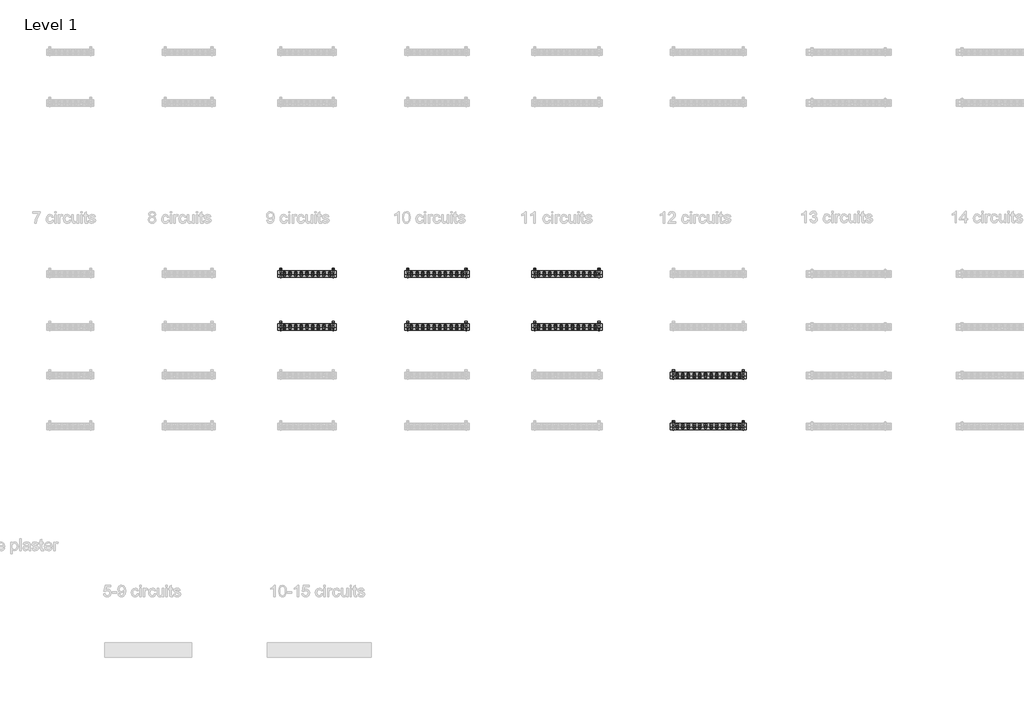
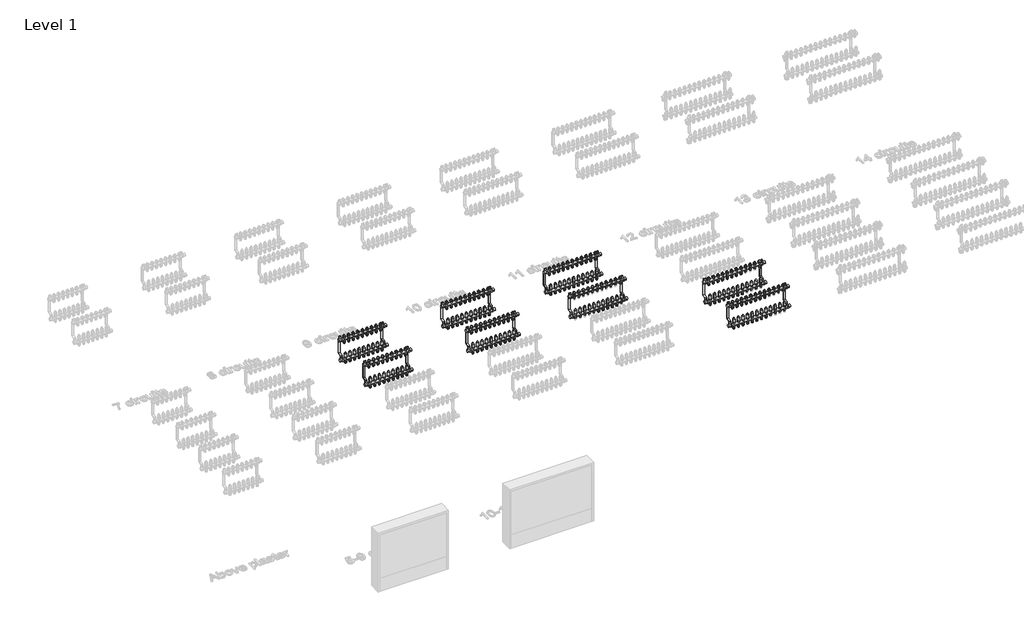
# One storey, part 4 of 23: 135 pipe fittings, 8 valves.
"""IFC4 building model written with IfcOpenShell, lengths in millimetres."""

from ifc_helpers import new_model, si_unit, origin, place, context, project, spatial, transform, mapped, element, save
from components import pipe_fitting_03c6499f, valve_f094e97b, valve_0359cbb0, valve_3285f891, valve_bdae45cc, valve_7e3f3941, valve_882e19a6, valve_5647343c, valve_f26d3ca9, valve_25ad0012, valve_28fdf4a6, valve_a7423dcf, valve_d379a65c, valve_24eee51e

model = new_model("IFC4")

# Units and contexts
model_context = context("Model", 3, world=origin())
ifc_project = project(units=[si_unit("LENGTHUNIT", "METRE", prefix="MILLI")], contexts=[model_context])

# Site, building, storey
site = spatial("IfcSite", under=ifc_project)
building = spatial("IfcBuilding", under=site)
storey = spatial("IfcBuildingStorey", under=building, Name="Level 1", Elevation=0.0)

# Pipe fittings
placement = place(None, origin())
pipe_fitting_shape = pipe_fitting_03c6499f(model_context)
element("IfcPipeFitting", 1, ObjectType="Euroconus screwing for multilayer pipes - Manifold FT : Euroconus screwing for multilayer pipes - Manifold FT", at=placement, inside=storey, context=model_context, shape_type="MappedRepresentation", body=[
    mapped(pipe_fitting_shape, transform((8575.9796862, -1164.6959314, 62.88733), x_axis=(0.0, 0.0, -1.0), y_axis=(0.0, 1.0000000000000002, 0.0), z_axis=(1.0000000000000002, 0.0, 0.0))),
])
element("IfcPipeFitting", 2, ObjectType="Euroconus screwing for multilayer pipes - Manifold FT : Euroconus screwing for multilayer pipes - Manifold FT", at=placement, inside=storey, context=model_context, shape_type="MappedRepresentation", body=[
    mapped(pipe_fitting_shape, transform((8526.9796862, -1164.6959314, 62.88733), x_axis=(0.0, 0.0, -1.0), y_axis=(0.0, 1.0000000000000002, 0.0), z_axis=(1.0000000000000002, 0.0, 0.0))),
])
element("IfcPipeFitting", 3, ObjectType="Euroconus screwing for multilayer pipes - Manifold FT : Euroconus screwing for multilayer pipes - Manifold FT", at=placement, inside=storey, context=model_context, shape_type="MappedRepresentation", body=[
    mapped(pipe_fitting_shape, transform((8477.9796862, -1164.6959314, 62.88733), x_axis=(0.0, 0.0, -1.0), y_axis=(0.0, 1.0000000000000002, 0.0), z_axis=(1.0000000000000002, 0.0, 0.0))),
])
element("IfcPipeFitting", 4, ObjectType="Euroconus screwing for multilayer pipes - Manifold FT : Euroconus screwing for multilayer pipes - Manifold FT", at=placement, inside=storey, context=model_context, shape_type="MappedRepresentation", body=[
    mapped(pipe_fitting_shape, transform((8428.9796862, -1164.6959314, 62.88733), x_axis=(0.0, 0.0, -1.0), y_axis=(0.0, 1.0000000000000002, 0.0), z_axis=(1.0000000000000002, 0.0, 0.0))),
])
element("IfcPipeFitting", 5, ObjectType="Euroconus screwing for multilayer pipes - Manifold FT : Euroconus screwing for multilayer pipes - Manifold FT", at=placement, inside=storey, context=model_context, shape_type="MappedRepresentation", body=[
    mapped(pipe_fitting_shape, transform((8379.9796862, -1164.6959314, 62.88733), x_axis=(0.0, 0.0, -1.0), y_axis=(0.0, 1.0000000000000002, 0.0), z_axis=(1.0000000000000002, 0.0, 0.0))),
])
element("IfcPipeFitting", 6, ObjectType="Euroconus screwing for multilayer pipes - Manifold FT : Euroconus screwing for multilayer pipes - Manifold FT", at=placement, inside=storey, context=model_context, shape_type="MappedRepresentation", body=[
    mapped(pipe_fitting_shape, transform((8330.9796862, -1164.6959314, 62.88733), x_axis=(0.0, 0.0, -1.0), y_axis=(0.0, 1.0000000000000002, 0.0), z_axis=(1.0000000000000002, 0.0, 0.0))),
])
element("IfcPipeFitting", 7, ObjectType="Euroconus screwing for multilayer pipes - Manifold FT : Euroconus screwing for multilayer pipes - Manifold FT", at=placement, inside=storey, context=model_context, shape_type="MappedRepresentation", body=[
    mapped(pipe_fitting_shape, transform((8281.9796862, -1164.6959314, 62.88733), x_axis=(0.0, 0.0, -1.0), y_axis=(0.0, 1.0000000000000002, 0.0), z_axis=(1.0000000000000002, 0.0, 0.0))),
])
element("IfcPipeFitting", 8, ObjectType="Euroconus screwing for multilayer pipes - Manifold FT : Euroconus screwing for multilayer pipes - Manifold FT", at=placement, inside=storey, context=model_context, shape_type="MappedRepresentation", body=[
    mapped(pipe_fitting_shape, transform((8624.9796862, -1164.6959314, 62.88733), x_axis=(0.0, 0.0, -1.0), y_axis=(0.0, 1.0000000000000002, 0.0), z_axis=(1.0000000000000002, 0.0, 0.0))),
])
element("IfcPipeFitting", 9, ObjectType="Euroconus screwing for multilayer pipes - Manifold FT : Euroconus screwing for multilayer pipes - Manifold FT", at=placement, inside=storey, context=model_context, shape_type="MappedRepresentation", body=[
    mapped(pipe_fitting_shape, transform((8575.9796862, -1139.6959314, 272.88733), x_axis=(0.0, 0.0, -1.0), y_axis=(0.0, 1.0000000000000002, 0.0), z_axis=(1.0000000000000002, 0.0, 0.0))),
])
element("IfcPipeFitting", 10, ObjectType="Euroconus screwing for multilayer pipes - Manifold FT : Euroconus screwing for multilayer pipes - Manifold FT", at=placement, inside=storey, context=model_context, shape_type="MappedRepresentation", body=[
    mapped(pipe_fitting_shape, transform((8526.9796862, -1139.6959314, 272.88733), x_axis=(0.0, 0.0, -1.0), y_axis=(0.0, 1.0000000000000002, 0.0), z_axis=(1.0000000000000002, 0.0, 0.0))),
])
element("IfcPipeFitting", 11, ObjectType="Euroconus screwing for multilayer pipes - Manifold FT : Euroconus screwing for multilayer pipes - Manifold FT", at=placement, inside=storey, context=model_context, shape_type="MappedRepresentation", body=[
    mapped(pipe_fitting_shape, transform((8477.9796862, -1139.6959314, 272.88733), x_axis=(0.0, 0.0, -1.0), y_axis=(0.0, 1.0000000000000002, 0.0), z_axis=(1.0000000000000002, 0.0, 0.0))),
])
element("IfcPipeFitting", 12, ObjectType="Euroconus screwing for multilayer pipes - Manifold FT : Euroconus screwing for multilayer pipes - Manifold FT", at=placement, inside=storey, context=model_context, shape_type="MappedRepresentation", body=[
    mapped(pipe_fitting_shape, transform((8428.9796862, -1139.6959314, 272.88733), x_axis=(0.0, 0.0, -1.0), y_axis=(0.0, 1.0000000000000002, 0.0), z_axis=(1.0000000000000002, 0.0, 0.0))),
])
element("IfcPipeFitting", 13, ObjectType="Euroconus screwing for multilayer pipes - Manifold FT : Euroconus screwing for multilayer pipes - Manifold FT", at=placement, inside=storey, context=model_context, shape_type="MappedRepresentation", body=[
    mapped(pipe_fitting_shape, transform((8379.9796862, -1139.6959314, 272.88733), x_axis=(0.0, 0.0, -1.0), y_axis=(0.0, 1.0000000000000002, 0.0), z_axis=(1.0000000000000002, 0.0, 0.0))),
])
element("IfcPipeFitting", 14, ObjectType="Euroconus screwing for multilayer pipes - Manifold FT : Euroconus screwing for multilayer pipes - Manifold FT", at=placement, inside=storey, context=model_context, shape_type="MappedRepresentation", body=[
    mapped(pipe_fitting_shape, transform((8330.9796862, -1139.6959314, 272.88733), x_axis=(0.0, 0.0, -1.0), y_axis=(0.0, 1.0000000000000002, 0.0), z_axis=(1.0000000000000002, 0.0, 0.0))),
])
element("IfcPipeFitting", 15, ObjectType="Euroconus screwing for multilayer pipes - Manifold FT : Euroconus screwing for multilayer pipes - Manifold FT", at=placement, inside=storey, context=model_context, shape_type="MappedRepresentation", body=[
    mapped(pipe_fitting_shape, transform((8281.9796862, -1139.6959314, 272.88733), x_axis=(0.0, 0.0, -1.0), y_axis=(0.0, 1.0000000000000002, 0.0), z_axis=(1.0000000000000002, 0.0, 0.0))),
])
element("IfcPipeFitting", 16, ObjectType="Euroconus screwing for multilayer pipes - Manifold FT : Euroconus screwing for multilayer pipes - Manifold FT", at=placement, inside=storey, context=model_context, shape_type="MappedRepresentation", body=[
    mapped(pipe_fitting_shape, transform((8624.9796862, -1139.6959314, 272.88733), x_axis=(0.0, 0.0, -1.0), y_axis=(0.0, 1.0000000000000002, 0.0), z_axis=(1.0000000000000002, 0.0, 0.0))),
])
element("IfcPipeFitting", 17, ObjectType="Euroconus screwing for multilayer pipes - Manifold FT : Euroconus screwing for multilayer pipes - Manifold FT", at=placement, inside=storey, context=model_context, shape_type="MappedRepresentation", body=[
    mapped(pipe_fitting_shape, transform((8232.9796862, -1164.6959314, 62.88733), x_axis=(0.0, 0.0, -1.0), y_axis=(0.0, 1.0000000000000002, 0.0), z_axis=(1.0000000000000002, 0.0, 0.0))),
])
element("IfcPipeFitting", 18, ObjectType="Euroconus screwing for multilayer pipes - Manifold FT : Euroconus screwing for multilayer pipes - Manifold FT", at=placement, inside=storey, context=model_context, shape_type="MappedRepresentation", body=[
    mapped(pipe_fitting_shape, transform((8232.9796862, -1139.6959314, 272.88733), x_axis=(0.0, 0.0, -1.0), y_axis=(0.0, 1.0000000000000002, 0.0), z_axis=(1.0000000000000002, 0.0, 0.0))),
])
element("IfcPipeFitting", 19, ObjectType="Euroconus screwing for multilayer pipes - Manifold FT : Euroconus screwing for multilayer pipes - Manifold FT", at=placement, inside=storey, context=model_context, shape_type="MappedRepresentation", body=[
    mapped(pipe_fitting_shape, transform((9725.8685751, -1164.6959314, 62.88733), x_axis=(0.0, 0.0, -1.0), y_axis=(0.0, 1.0000000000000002, 0.0), z_axis=(1.0000000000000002, 0.0, 0.0))),
])
element("IfcPipeFitting", 20, ObjectType="Euroconus screwing for multilayer pipes - Manifold FT : Euroconus screwing for multilayer pipes - Manifold FT", at=placement, inside=storey, context=model_context, shape_type="MappedRepresentation", body=[
    mapped(pipe_fitting_shape, transform((9676.7574639, -1164.6959314, 62.88733), x_axis=(0.0, 0.0, -1.0), y_axis=(0.0, 1.0000000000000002, 0.0), z_axis=(1.0000000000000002, 0.0, 0.0))),
])
element("IfcPipeFitting", 21, ObjectType="Euroconus screwing for multilayer pipes - Manifold FT : Euroconus screwing for multilayer pipes - Manifold FT", at=placement, inside=storey, context=model_context, shape_type="MappedRepresentation", body=[
    mapped(pipe_fitting_shape, transform((9627.6463528, -1164.6959314, 62.88733), x_axis=(0.0, 0.0, -1.0), y_axis=(0.0, 1.0000000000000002, 0.0), z_axis=(1.0000000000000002, 0.0, 0.0))),
])
element("IfcPipeFitting", 22, ObjectType="Euroconus screwing for multilayer pipes - Manifold FT : Euroconus screwing for multilayer pipes - Manifold FT", at=placement, inside=storey, context=model_context, shape_type="MappedRepresentation", body=[
    mapped(pipe_fitting_shape, transform((9578.5352417, -1164.6959314, 62.88733), x_axis=(0.0, 0.0, -1.0), y_axis=(0.0, 1.0000000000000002, 0.0), z_axis=(1.0000000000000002, 0.0, 0.0))),
])
element("IfcPipeFitting", 23, ObjectType="Euroconus screwing for multilayer pipes - Manifold FT : Euroconus screwing for multilayer pipes - Manifold FT", at=placement, inside=storey, context=model_context, shape_type="MappedRepresentation", body=[
    mapped(pipe_fitting_shape, transform((9529.4241306, -1164.6959314, 62.88733), x_axis=(0.0, 0.0, -1.0), y_axis=(0.0, 1.0000000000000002, 0.0), z_axis=(1.0000000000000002, 0.0, 0.0))),
])
element("IfcPipeFitting", 24, ObjectType="Euroconus screwing for multilayer pipes - Manifold FT : Euroconus screwing for multilayer pipes - Manifold FT", at=placement, inside=storey, context=model_context, shape_type="MappedRepresentation", body=[
    mapped(pipe_fitting_shape, transform((9480.3130195, -1164.6959314, 62.88733), x_axis=(0.0, 0.0, -1.0), y_axis=(0.0, 1.0000000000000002, 0.0), z_axis=(1.0000000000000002, 0.0, 0.0))),
])
element("IfcPipeFitting", 25, ObjectType="Euroconus screwing for multilayer pipes - Manifold FT : Euroconus screwing for multilayer pipes - Manifold FT", at=placement, inside=storey, context=model_context, shape_type="MappedRepresentation", body=[
    mapped(pipe_fitting_shape, transform((9431.2019084, -1164.6959314, 62.88733), x_axis=(0.0, 0.0, -1.0), y_axis=(0.0, 1.0000000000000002, 0.0), z_axis=(1.0000000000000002, 0.0, 0.0))),
])
element("IfcPipeFitting", 26, ObjectType="Euroconus screwing for multilayer pipes - Manifold FT : Euroconus screwing for multilayer pipes - Manifold FT", at=placement, inside=storey, context=model_context, shape_type="MappedRepresentation", body=[
    mapped(pipe_fitting_shape, transform((9382.0907973, -1164.6959314, 62.88733), x_axis=(0.0, 0.0, -1.0), y_axis=(0.0, 1.0000000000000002, 0.0), z_axis=(1.0000000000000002, 0.0, 0.0))),
])
element("IfcPipeFitting", 27, ObjectType="Euroconus screwing for multilayer pipes - Manifold FT : Euroconus screwing for multilayer pipes - Manifold FT", at=placement, inside=storey, context=model_context, shape_type="MappedRepresentation", body=[
    mapped(pipe_fitting_shape, transform((9774.9796862, -1164.6959314, 62.88733), x_axis=(0.0, 0.0, -1.0), y_axis=(0.0, 1.0000000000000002, 0.0), z_axis=(1.0000000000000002, 0.0, 0.0))),
])
element("IfcPipeFitting", 28, ObjectType="Euroconus screwing for multilayer pipes - Manifold FT : Euroconus screwing for multilayer pipes - Manifold FT", at=placement, inside=storey, context=model_context, shape_type="MappedRepresentation", body=[
    mapped(pipe_fitting_shape, transform((9725.8685751, -1139.6959314, 272.88733), x_axis=(0.0, 0.0, -1.0), y_axis=(0.0, 1.0000000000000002, 0.0), z_axis=(1.0000000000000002, 0.0, 0.0))),
])
element("IfcPipeFitting", 29, ObjectType="Euroconus screwing for multilayer pipes - Manifold FT : Euroconus screwing for multilayer pipes - Manifold FT", at=placement, inside=storey, context=model_context, shape_type="MappedRepresentation", body=[
    mapped(pipe_fitting_shape, transform((9676.7574639, -1139.6959314, 272.88733), x_axis=(0.0, 0.0, -1.0), y_axis=(0.0, 1.0000000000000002, 0.0), z_axis=(1.0000000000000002, 0.0, 0.0))),
])
element("IfcPipeFitting", 30, ObjectType="Euroconus screwing for multilayer pipes - Manifold FT : Euroconus screwing for multilayer pipes - Manifold FT", at=placement, inside=storey, context=model_context, shape_type="MappedRepresentation", body=[
    mapped(pipe_fitting_shape, transform((9627.6463528, -1139.6959314, 272.88733), x_axis=(0.0, 0.0, -1.0), y_axis=(0.0, 1.0000000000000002, 0.0), z_axis=(1.0000000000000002, 0.0, 0.0))),
])
element("IfcPipeFitting", 31, ObjectType="Euroconus screwing for multilayer pipes - Manifold FT : Euroconus screwing for multilayer pipes - Manifold FT", at=placement, inside=storey, context=model_context, shape_type="MappedRepresentation", body=[
    mapped(pipe_fitting_shape, transform((9578.5352417, -1139.6959314, 272.88733), x_axis=(0.0, 0.0, -1.0), y_axis=(0.0, 1.0000000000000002, 0.0), z_axis=(1.0000000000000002, 0.0, 0.0))),
])
element("IfcPipeFitting", 32, ObjectType="Euroconus screwing for multilayer pipes - Manifold FT : Euroconus screwing for multilayer pipes - Manifold FT", at=placement, inside=storey, context=model_context, shape_type="MappedRepresentation", body=[
    mapped(pipe_fitting_shape, transform((9529.4241306, -1139.6959314, 272.88733), x_axis=(0.0, 0.0, -1.0), y_axis=(0.0, 1.0000000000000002, 0.0), z_axis=(1.0000000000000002, 0.0, 0.0))),
])
element("IfcPipeFitting", 33, ObjectType="Euroconus screwing for multilayer pipes - Manifold FT : Euroconus screwing for multilayer pipes - Manifold FT", at=placement, inside=storey, context=model_context, shape_type="MappedRepresentation", body=[
    mapped(pipe_fitting_shape, transform((9480.3130195, -1139.6959314, 272.88733), x_axis=(0.0, 0.0, -1.0), y_axis=(0.0, 1.0000000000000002, 0.0), z_axis=(1.0000000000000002, 0.0, 0.0))),
])
element("IfcPipeFitting", 34, ObjectType="Euroconus screwing for multilayer pipes - Manifold FT : Euroconus screwing for multilayer pipes - Manifold FT", at=placement, inside=storey, context=model_context, shape_type="MappedRepresentation", body=[
    mapped(pipe_fitting_shape, transform((9431.2019084, -1139.6959314, 272.88733), x_axis=(0.0, 0.0, -1.0), y_axis=(0.0, 1.0000000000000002, 0.0), z_axis=(1.0000000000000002, 0.0, 0.0))),
])
element("IfcPipeFitting", 35, ObjectType="Euroconus screwing for multilayer pipes - Manifold FT : Euroconus screwing for multilayer pipes - Manifold FT", at=placement, inside=storey, context=model_context, shape_type="MappedRepresentation", body=[
    mapped(pipe_fitting_shape, transform((9382.0907973, -1139.6959314, 272.88733), x_axis=(0.0, 0.0, -1.0), y_axis=(0.0, 1.0000000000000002, 0.0), z_axis=(1.0000000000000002, 0.0, 0.0))),
])
element("IfcPipeFitting", 36, ObjectType="Euroconus screwing for multilayer pipes - Manifold FT : Euroconus screwing for multilayer pipes - Manifold FT", at=placement, inside=storey, context=model_context, shape_type="MappedRepresentation", body=[
    mapped(pipe_fitting_shape, transform((9774.9796862, -1139.6959314, 272.88733), x_axis=(0.0, 0.0, -1.0), y_axis=(0.0, 1.0000000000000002, 0.0), z_axis=(1.0000000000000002, 0.0, 0.0))),
])
element("IfcPipeFitting", 37, ObjectType="Euroconus screwing for multilayer pipes - Manifold FT : Euroconus screwing for multilayer pipes - Manifold FT", at=placement, inside=storey, context=model_context, shape_type="MappedRepresentation", body=[
    mapped(pipe_fitting_shape, transform((9332.9796862, -1164.6959314, 62.88733), x_axis=(0.0, 0.0, -1.0), y_axis=(0.0, 1.0000000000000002, 0.0), z_axis=(1.0000000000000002, 0.0, 0.0))),
])
element("IfcPipeFitting", 38, ObjectType="Euroconus screwing for multilayer pipes - Manifold FT : Euroconus screwing for multilayer pipes - Manifold FT", at=placement, inside=storey, context=model_context, shape_type="MappedRepresentation", body=[
    mapped(pipe_fitting_shape, transform((9332.9796862, -1139.6959314, 272.88733), x_axis=(0.0, 0.0, -1.0), y_axis=(0.0, 1.0000000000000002, 0.0), z_axis=(1.0000000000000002, 0.0, 0.0))),
])
element("IfcPipeFitting", 39, ObjectType="Euroconus screwing for multilayer pipes - Manifold FT : Euroconus screwing for multilayer pipes - Manifold FT", at=placement, inside=storey, context=model_context, shape_type="MappedRepresentation", body=[
    mapped(pipe_fitting_shape, transform((10875.7796862, -1164.6959314, 62.88733), x_axis=(0.0, 0.0, -1.0), y_axis=(0.0, 1.0000000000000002, 0.0), z_axis=(1.0000000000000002, 0.0, 0.0))),
])
element("IfcPipeFitting", 40, ObjectType="Euroconus screwing for multilayer pipes - Manifold FT : Euroconus screwing for multilayer pipes - Manifold FT", at=placement, inside=storey, context=model_context, shape_type="MappedRepresentation", body=[
    mapped(pipe_fitting_shape, transform((10826.5796862, -1164.6959314, 62.88733), x_axis=(0.0, 0.0, -1.0), y_axis=(0.0, 1.0000000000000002, 0.0), z_axis=(1.0000000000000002, 0.0, 0.0))),
])
element("IfcPipeFitting", 41, ObjectType="Euroconus screwing for multilayer pipes - Manifold FT : Euroconus screwing for multilayer pipes - Manifold FT", at=placement, inside=storey, context=model_context, shape_type="MappedRepresentation", body=[
    mapped(pipe_fitting_shape, transform((10777.3796862, -1164.6959314, 62.88733), x_axis=(0.0, 0.0, -1.0), y_axis=(0.0, 1.0000000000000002, 0.0), z_axis=(1.0000000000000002, 0.0, 0.0))),
])
element("IfcPipeFitting", 42, ObjectType="Euroconus screwing for multilayer pipes - Manifold FT : Euroconus screwing for multilayer pipes - Manifold FT", at=placement, inside=storey, context=model_context, shape_type="MappedRepresentation", body=[
    mapped(pipe_fitting_shape, transform((10728.1796862, -1164.6959314, 62.88733), x_axis=(0.0, 0.0, -1.0), y_axis=(0.0, 1.0000000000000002, 0.0), z_axis=(1.0000000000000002, 0.0, 0.0))),
])
element("IfcPipeFitting", 43, ObjectType="Euroconus screwing for multilayer pipes - Manifold FT : Euroconus screwing for multilayer pipes - Manifold FT", at=placement, inside=storey, context=model_context, shape_type="MappedRepresentation", body=[
    mapped(pipe_fitting_shape, transform((10678.9796862, -1164.6959314, 62.88733), x_axis=(0.0, 0.0, -1.0), y_axis=(0.0, 1.0000000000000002, 0.0), z_axis=(1.0000000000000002, 0.0, 0.0))),
])
element("IfcPipeFitting", 44, ObjectType="Euroconus screwing for multilayer pipes - Manifold FT : Euroconus screwing for multilayer pipes - Manifold FT", at=placement, inside=storey, context=model_context, shape_type="MappedRepresentation", body=[
    mapped(pipe_fitting_shape, transform((10629.7796862, -1164.6959314, 62.88733), x_axis=(0.0, 0.0, -1.0), y_axis=(0.0, 1.0000000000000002, 0.0), z_axis=(1.0000000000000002, 0.0, 0.0))),
])
element("IfcPipeFitting", 45, ObjectType="Euroconus screwing for multilayer pipes - Manifold FT : Euroconus screwing for multilayer pipes - Manifold FT", at=placement, inside=storey, context=model_context, shape_type="MappedRepresentation", body=[
    mapped(pipe_fitting_shape, transform((10580.5796862, -1164.6959314, 62.88733), x_axis=(0.0, 0.0, -1.0), y_axis=(0.0, 1.0000000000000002, 0.0), z_axis=(1.0000000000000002, 0.0, 0.0))),
])
element("IfcPipeFitting", 46, ObjectType="Euroconus screwing for multilayer pipes - Manifold FT : Euroconus screwing for multilayer pipes - Manifold FT", at=placement, inside=storey, context=model_context, shape_type="MappedRepresentation", body=[
    mapped(pipe_fitting_shape, transform((10531.3796862, -1164.6959314, 62.88733), x_axis=(0.0, 0.0, -1.0), y_axis=(0.0, 1.0000000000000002, 0.0), z_axis=(1.0000000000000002, 0.0, 0.0))),
])
element("IfcPipeFitting", 47, ObjectType="Euroconus screwing for multilayer pipes - Manifold FT : Euroconus screwing for multilayer pipes - Manifold FT", at=placement, inside=storey, context=model_context, shape_type="MappedRepresentation", body=[
    mapped(pipe_fitting_shape, transform((10482.1796862, -1164.6959314, 62.88733), x_axis=(0.0, 0.0, -1.0), y_axis=(0.0, 1.0000000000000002, 0.0), z_axis=(1.0000000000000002, 0.0, 0.0))),
])
element("IfcPipeFitting", 48, ObjectType="Euroconus screwing for multilayer pipes - Manifold FT : Euroconus screwing for multilayer pipes - Manifold FT", at=placement, inside=storey, context=model_context, shape_type="MappedRepresentation", body=[
    mapped(pipe_fitting_shape, transform((10924.9796862, -1164.6959314, 62.88733), x_axis=(0.0, 0.0, -1.0), y_axis=(0.0, 1.0000000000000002, 0.0), z_axis=(1.0000000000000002, 0.0, 0.0))),
])
element("IfcPipeFitting", 49, ObjectType="Euroconus screwing for multilayer pipes - Manifold FT : Euroconus screwing for multilayer pipes - Manifold FT", at=placement, inside=storey, context=model_context, shape_type="MappedRepresentation", body=[
    mapped(pipe_fitting_shape, transform((10875.7796862, -1139.6959314, 272.88733), x_axis=(0.0, 0.0, -1.0), y_axis=(0.0, 1.0000000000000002, 0.0), z_axis=(1.0000000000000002, 0.0, 0.0))),
])
element("IfcPipeFitting", 50, ObjectType="Euroconus screwing for multilayer pipes - Manifold FT : Euroconus screwing for multilayer pipes - Manifold FT", at=placement, inside=storey, context=model_context, shape_type="MappedRepresentation", body=[
    mapped(pipe_fitting_shape, transform((10826.5796862, -1139.6959314, 272.88733), x_axis=(0.0, 0.0, -1.0), y_axis=(0.0, 1.0000000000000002, 0.0), z_axis=(1.0000000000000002, 0.0, 0.0))),
])
element("IfcPipeFitting", 51, ObjectType="Euroconus screwing for multilayer pipes - Manifold FT : Euroconus screwing for multilayer pipes - Manifold FT", at=placement, inside=storey, context=model_context, shape_type="MappedRepresentation", body=[
    mapped(pipe_fitting_shape, transform((10777.3796862, -1139.6959314, 272.88733), x_axis=(0.0, 0.0, -1.0), y_axis=(0.0, 1.0000000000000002, 0.0), z_axis=(1.0000000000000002, 0.0, 0.0))),
])
element("IfcPipeFitting", 52, ObjectType="Euroconus screwing for multilayer pipes - Manifold FT : Euroconus screwing for multilayer pipes - Manifold FT", at=placement, inside=storey, context=model_context, shape_type="MappedRepresentation", body=[
    mapped(pipe_fitting_shape, transform((10728.1796862, -1139.6959314, 272.88733), x_axis=(0.0, 0.0, -1.0), y_axis=(0.0, 1.0000000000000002, 0.0), z_axis=(1.0000000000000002, 0.0, 0.0))),
])
element("IfcPipeFitting", 53, ObjectType="Euroconus screwing for multilayer pipes - Manifold FT : Euroconus screwing for multilayer pipes - Manifold FT", at=placement, inside=storey, context=model_context, shape_type="MappedRepresentation", body=[
    mapped(pipe_fitting_shape, transform((10678.9796862, -1139.6959314, 272.88733), x_axis=(0.0, 0.0, -1.0), y_axis=(0.0, 1.0000000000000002, 0.0), z_axis=(1.0000000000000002, 0.0, 0.0))),
])
element("IfcPipeFitting", 54, ObjectType="Euroconus screwing for multilayer pipes - Manifold FT : Euroconus screwing for multilayer pipes - Manifold FT", at=placement, inside=storey, context=model_context, shape_type="MappedRepresentation", body=[
    mapped(pipe_fitting_shape, transform((10629.7796862, -1139.6959314, 272.88733), x_axis=(0.0, 0.0, -1.0), y_axis=(0.0, 1.0000000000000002, 0.0), z_axis=(1.0000000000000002, 0.0, 0.0))),
])
element("IfcPipeFitting", 55, ObjectType="Euroconus screwing for multilayer pipes - Manifold FT : Euroconus screwing for multilayer pipes - Manifold FT", at=placement, inside=storey, context=model_context, shape_type="MappedRepresentation", body=[
    mapped(pipe_fitting_shape, transform((10580.5796862, -1139.6959314, 272.88733), x_axis=(0.0, 0.0, -1.0), y_axis=(0.0, 1.0000000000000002, 0.0), z_axis=(1.0000000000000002, 0.0, 0.0))),
])
element("IfcPipeFitting", 56, ObjectType="Euroconus screwing for multilayer pipes - Manifold FT : Euroconus screwing for multilayer pipes - Manifold FT", at=placement, inside=storey, context=model_context, shape_type="MappedRepresentation", body=[
    mapped(pipe_fitting_shape, transform((10531.3796862, -1139.6959314, 272.88733), x_axis=(0.0, 0.0, -1.0), y_axis=(0.0, 1.0000000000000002, 0.0), z_axis=(1.0000000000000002, 0.0, 0.0))),
])
element("IfcPipeFitting", 57, ObjectType="Euroconus screwing for multilayer pipes - Manifold FT : Euroconus screwing for multilayer pipes - Manifold FT", at=placement, inside=storey, context=model_context, shape_type="MappedRepresentation", body=[
    mapped(pipe_fitting_shape, transform((10482.1796862, -1139.6959314, 272.88733), x_axis=(0.0, 0.0, -1.0), y_axis=(0.0, 1.0000000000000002, 0.0), z_axis=(1.0000000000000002, 0.0, 0.0))),
])
element("IfcPipeFitting", 58, ObjectType="Euroconus screwing for multilayer pipes - Manifold FT : Euroconus screwing for multilayer pipes - Manifold FT", at=placement, inside=storey, context=model_context, shape_type="MappedRepresentation", body=[
    mapped(pipe_fitting_shape, transform((10924.9796862, -1139.6959314, 272.88733), x_axis=(0.0, 0.0, -1.0), y_axis=(0.0, 1.0000000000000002, 0.0), z_axis=(1.0000000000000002, 0.0, 0.0))),
])
element("IfcPipeFitting", 59, ObjectType="Euroconus screwing for multilayer pipes - Manifold FT : Euroconus screwing for multilayer pipes - Manifold FT", at=placement, inside=storey, context=model_context, shape_type="MappedRepresentation", body=[
    mapped(pipe_fitting_shape, transform((10432.9796862, -1164.6959314, 62.88733), x_axis=(0.0, 0.0, -1.0), y_axis=(0.0, 1.0000000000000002, 0.0), z_axis=(1.0000000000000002, 0.0, 0.0))),
])
element("IfcPipeFitting", 60, ObjectType="Euroconus screwing for multilayer pipes - Manifold FT : Euroconus screwing for multilayer pipes - Manifold FT", at=placement, inside=storey, context=model_context, shape_type="MappedRepresentation", body=[
    mapped(pipe_fitting_shape, transform((10432.9796862, -1139.6959314, 272.88733), x_axis=(0.0, 0.0, -1.0), y_axis=(0.0, 1.0000000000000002, 0.0), z_axis=(1.0000000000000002, 0.0, 0.0))),
])
element("IfcPipeFitting", 61, ObjectType="Euroconus screwing for multilayer pipes - Manifold FT : Euroconus screwing for multilayer pipes - Manifold FT", at=placement, inside=storey, context=model_context, shape_type="MappedRepresentation", body=[
    mapped(pipe_fitting_shape, transform((8575.9796862, -1624.6959314, 62.88733), x_axis=(0.0, 0.0, -1.0), y_axis=(0.0, 1.0000000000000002, 0.0), z_axis=(1.0000000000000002, 0.0, 0.0))),
])
element("IfcPipeFitting", 62, ObjectType="Euroconus screwing for multilayer pipes - Manifold FT : Euroconus screwing for multilayer pipes - Manifold FT", at=placement, inside=storey, context=model_context, shape_type="MappedRepresentation", body=[
    mapped(pipe_fitting_shape, transform((8526.9796862, -1624.6959314, 62.88733), x_axis=(0.0, 0.0, -1.0), y_axis=(0.0, 1.0000000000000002, 0.0), z_axis=(1.0000000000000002, 0.0, 0.0))),
])
element("IfcPipeFitting", 63, ObjectType="Euroconus screwing for multilayer pipes - Manifold FT : Euroconus screwing for multilayer pipes - Manifold FT", at=placement, inside=storey, context=model_context, shape_type="MappedRepresentation", body=[
    mapped(pipe_fitting_shape, transform((8477.9796862, -1624.6959314, 62.88733), x_axis=(0.0, 0.0, -1.0), y_axis=(0.0, 1.0000000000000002, 0.0), z_axis=(1.0000000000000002, 0.0, 0.0))),
])
element("IfcPipeFitting", 64, ObjectType="Euroconus screwing for multilayer pipes - Manifold FT : Euroconus screwing for multilayer pipes - Manifold FT", at=placement, inside=storey, context=model_context, shape_type="MappedRepresentation", body=[
    mapped(pipe_fitting_shape, transform((8428.9796862, -1624.6959314, 62.88733), x_axis=(0.0, 0.0, -1.0), y_axis=(0.0, 1.0000000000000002, 0.0), z_axis=(1.0000000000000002, 0.0, 0.0))),
])
element("IfcPipeFitting", 65, ObjectType="Euroconus screwing for multilayer pipes - Manifold FT : Euroconus screwing for multilayer pipes - Manifold FT", at=placement, inside=storey, context=model_context, shape_type="MappedRepresentation", body=[
    mapped(pipe_fitting_shape, transform((8379.9796862, -1624.6959314, 62.88733), x_axis=(0.0, 0.0, -1.0), y_axis=(0.0, 1.0000000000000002, 0.0), z_axis=(1.0000000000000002, 0.0, 0.0))),
])
element("IfcPipeFitting", 66, ObjectType="Euroconus screwing for multilayer pipes - Manifold FT : Euroconus screwing for multilayer pipes - Manifold FT", at=placement, inside=storey, context=model_context, shape_type="MappedRepresentation", body=[
    mapped(pipe_fitting_shape, transform((8330.9796862, -1624.6959314, 62.88733), x_axis=(0.0, 0.0, -1.0), y_axis=(0.0, 1.0000000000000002, 0.0), z_axis=(1.0000000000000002, 0.0, 0.0))),
])
element("IfcPipeFitting", 67, ObjectType="Euroconus screwing for multilayer pipes - Manifold FT : Euroconus screwing for multilayer pipes - Manifold FT", at=placement, inside=storey, context=model_context, shape_type="MappedRepresentation", body=[
    mapped(pipe_fitting_shape, transform((8281.9796862, -1624.6959314, 62.88733), x_axis=(0.0, 0.0, -1.0), y_axis=(0.0, 1.0000000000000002, 0.0), z_axis=(1.0000000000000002, 0.0, 0.0))),
])
element("IfcPipeFitting", 68, ObjectType="Euroconus screwing for multilayer pipes - Manifold FT : Euroconus screwing for multilayer pipes - Manifold FT", at=placement, inside=storey, context=model_context, shape_type="MappedRepresentation", body=[
    mapped(pipe_fitting_shape, transform((8624.9796862, -1624.6959314, 62.88733), x_axis=(0.0, 0.0, -1.0), y_axis=(0.0, 1.0000000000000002, 0.0), z_axis=(1.0000000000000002, 0.0, 0.0))),
])
element("IfcPipeFitting", 69, ObjectType="Euroconus screwing for multilayer pipes - Manifold FT : Euroconus screwing for multilayer pipes - Manifold FT", at=placement, inside=storey, context=model_context, shape_type="MappedRepresentation", body=[
    mapped(pipe_fitting_shape, transform((8575.9796862, -1599.6959314, 272.88733), x_axis=(0.0, 0.0, -1.0), y_axis=(0.0, 1.0000000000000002, 0.0), z_axis=(1.0000000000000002, 0.0, 0.0))),
])
element("IfcPipeFitting", 70, ObjectType="Euroconus screwing for multilayer pipes - Manifold FT : Euroconus screwing for multilayer pipes - Manifold FT", at=placement, inside=storey, context=model_context, shape_type="MappedRepresentation", body=[
    mapped(pipe_fitting_shape, transform((8526.9796862, -1599.6959314, 272.88733), x_axis=(0.0, 0.0, -1.0), y_axis=(0.0, 1.0000000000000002, 0.0), z_axis=(1.0000000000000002, 0.0, 0.0))),
])
element("IfcPipeFitting", 71, ObjectType="Euroconus screwing for multilayer pipes - Manifold FT : Euroconus screwing for multilayer pipes - Manifold FT", at=placement, inside=storey, context=model_context, shape_type="MappedRepresentation", body=[
    mapped(pipe_fitting_shape, transform((8477.9796862, -1599.6959314, 272.88733), x_axis=(0.0, 0.0, -1.0), y_axis=(0.0, 1.0000000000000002, 0.0), z_axis=(1.0000000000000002, 0.0, 0.0))),
])
element("IfcPipeFitting", 72, ObjectType="Euroconus screwing for multilayer pipes - Manifold FT : Euroconus screwing for multilayer pipes - Manifold FT", at=placement, inside=storey, context=model_context, shape_type="MappedRepresentation", body=[
    mapped(pipe_fitting_shape, transform((8428.9796862, -1599.6959314, 272.88733), x_axis=(0.0, 0.0, -1.0), y_axis=(0.0, 1.0000000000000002, 0.0), z_axis=(1.0000000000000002, 0.0, 0.0))),
])
element("IfcPipeFitting", 73, ObjectType="Euroconus screwing for multilayer pipes - Manifold FT : Euroconus screwing for multilayer pipes - Manifold FT", at=placement, inside=storey, context=model_context, shape_type="MappedRepresentation", body=[
    mapped(pipe_fitting_shape, transform((8379.9796862, -1599.6959314, 272.88733), x_axis=(0.0, 0.0, -1.0), y_axis=(0.0, 1.0000000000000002, 0.0), z_axis=(1.0000000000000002, 0.0, 0.0))),
])
element("IfcPipeFitting", 74, ObjectType="Euroconus screwing for multilayer pipes - Manifold FT : Euroconus screwing for multilayer pipes - Manifold FT", at=placement, inside=storey, context=model_context, shape_type="MappedRepresentation", body=[
    mapped(pipe_fitting_shape, transform((8330.9796862, -1599.6959314, 272.88733), x_axis=(0.0, 0.0, -1.0), y_axis=(0.0, 1.0000000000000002, 0.0), z_axis=(1.0000000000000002, 0.0, 0.0))),
])
element("IfcPipeFitting", 75, ObjectType="Euroconus screwing for multilayer pipes - Manifold FT : Euroconus screwing for multilayer pipes - Manifold FT", at=placement, inside=storey, context=model_context, shape_type="MappedRepresentation", body=[
    mapped(pipe_fitting_shape, transform((8281.9796862, -1599.6959314, 272.88733), x_axis=(0.0, 0.0, -1.0), y_axis=(0.0, 1.0000000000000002, 0.0), z_axis=(1.0000000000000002, 0.0, 0.0))),
])
element("IfcPipeFitting", 76, ObjectType="Euroconus screwing for multilayer pipes - Manifold FT : Euroconus screwing for multilayer pipes - Manifold FT", at=placement, inside=storey, context=model_context, shape_type="MappedRepresentation", body=[
    mapped(pipe_fitting_shape, transform((8624.9796862, -1599.6959314, 272.88733), x_axis=(0.0, 0.0, -1.0), y_axis=(0.0, 1.0000000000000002, 0.0), z_axis=(1.0000000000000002, 0.0, 0.0))),
])
element("IfcPipeFitting", 77, ObjectType="Euroconus screwing for multilayer pipes - Manifold FT : Euroconus screwing for multilayer pipes - Manifold FT", at=placement, inside=storey, context=model_context, shape_type="MappedRepresentation", body=[
    mapped(pipe_fitting_shape, transform((8232.9796862, -1624.6959314, 62.88733), x_axis=(0.0, 0.0, -1.0), y_axis=(0.0, 1.0000000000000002, 0.0), z_axis=(1.0000000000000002, 0.0, 0.0))),
])
element("IfcPipeFitting", 78, ObjectType="Euroconus screwing for multilayer pipes - Manifold FT : Euroconus screwing for multilayer pipes - Manifold FT", at=placement, inside=storey, context=model_context, shape_type="MappedRepresentation", body=[
    mapped(pipe_fitting_shape, transform((8232.9796862, -1599.6959314, 272.88733), x_axis=(0.0, 0.0, -1.0), y_axis=(0.0, 1.0000000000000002, 0.0), z_axis=(1.0000000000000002, 0.0, 0.0))),
])
element("IfcPipeFitting", 79, ObjectType="Euroconus screwing for multilayer pipes - Manifold FT : Euroconus screwing for multilayer pipes - Manifold FT", at=placement, inside=storey, context=model_context, shape_type="MappedRepresentation", body=[
    mapped(pipe_fitting_shape, transform((9725.8685751, -1624.6959314, 62.88733), x_axis=(0.0, 0.0, -1.0), y_axis=(0.0, 1.0000000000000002, 0.0), z_axis=(1.0000000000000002, 0.0, 0.0))),
])
element("IfcPipeFitting", 80, ObjectType="Euroconus screwing for multilayer pipes - Manifold FT : Euroconus screwing for multilayer pipes - Manifold FT", at=placement, inside=storey, context=model_context, shape_type="MappedRepresentation", body=[
    mapped(pipe_fitting_shape, transform((9676.7574639, -1624.6959314, 62.88733), x_axis=(0.0, 0.0, -1.0), y_axis=(0.0, 1.0000000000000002, 0.0), z_axis=(1.0000000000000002, 0.0, 0.0))),
])
element("IfcPipeFitting", 81, ObjectType="Euroconus screwing for multilayer pipes - Manifold FT : Euroconus screwing for multilayer pipes - Manifold FT", at=placement, inside=storey, context=model_context, shape_type="MappedRepresentation", body=[
    mapped(pipe_fitting_shape, transform((9627.6463528, -1624.6959314, 62.88733), x_axis=(0.0, 0.0, -1.0), y_axis=(0.0, 1.0000000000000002, 0.0), z_axis=(1.0000000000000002, 0.0, 0.0))),
])
element("IfcPipeFitting", 82, ObjectType="Euroconus screwing for multilayer pipes - Manifold FT : Euroconus screwing for multilayer pipes - Manifold FT", at=placement, inside=storey, context=model_context, shape_type="MappedRepresentation", body=[
    mapped(pipe_fitting_shape, transform((9578.5352417, -1624.6959314, 62.88733), x_axis=(0.0, 0.0, -1.0), y_axis=(0.0, 1.0000000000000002, 0.0), z_axis=(1.0000000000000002, 0.0, 0.0))),
])
element("IfcPipeFitting", 83, ObjectType="Euroconus screwing for multilayer pipes - Manifold FT : Euroconus screwing for multilayer pipes - Manifold FT", at=placement, inside=storey, context=model_context, shape_type="MappedRepresentation", body=[
    mapped(pipe_fitting_shape, transform((9529.4241306, -1624.6959314, 62.88733), x_axis=(0.0, 0.0, -1.0), y_axis=(0.0, 1.0000000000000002, 0.0), z_axis=(1.0000000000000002, 0.0, 0.0))),
])
element("IfcPipeFitting", 84, ObjectType="Euroconus screwing for multilayer pipes - Manifold FT : Euroconus screwing for multilayer pipes - Manifold FT", at=placement, inside=storey, context=model_context, shape_type="MappedRepresentation", body=[
    mapped(pipe_fitting_shape, transform((9480.3130195, -1624.6959314, 62.88733), x_axis=(0.0, 0.0, -1.0), y_axis=(0.0, 1.0000000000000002, 0.0), z_axis=(1.0000000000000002, 0.0, 0.0))),
])
element("IfcPipeFitting", 85, ObjectType="Euroconus screwing for multilayer pipes - Manifold FT : Euroconus screwing for multilayer pipes - Manifold FT", at=placement, inside=storey, context=model_context, shape_type="MappedRepresentation", body=[
    mapped(pipe_fitting_shape, transform((9431.2019084, -1624.6959314, 62.88733), x_axis=(0.0, 0.0, -1.0), y_axis=(0.0, 1.0000000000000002, 0.0), z_axis=(1.0000000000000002, 0.0, 0.0))),
])
element("IfcPipeFitting", 86, ObjectType="Euroconus screwing for multilayer pipes - Manifold FT : Euroconus screwing for multilayer pipes - Manifold FT", at=placement, inside=storey, context=model_context, shape_type="MappedRepresentation", body=[
    mapped(pipe_fitting_shape, transform((9382.0907973, -1624.6959314, 62.88733), x_axis=(0.0, 0.0, -1.0), y_axis=(0.0, 1.0000000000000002, 0.0), z_axis=(1.0000000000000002, 0.0, 0.0))),
])
element("IfcPipeFitting", 87, ObjectType="Euroconus screwing for multilayer pipes - Manifold FT : Euroconus screwing for multilayer pipes - Manifold FT", at=placement, inside=storey, context=model_context, shape_type="MappedRepresentation", body=[
    mapped(pipe_fitting_shape, transform((9774.9796862, -1624.6959314, 62.88733), x_axis=(0.0, 0.0, -1.0), y_axis=(0.0, 1.0000000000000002, 0.0), z_axis=(1.0000000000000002, 0.0, 0.0))),
])
element("IfcPipeFitting", 88, ObjectType="Euroconus screwing for multilayer pipes - Manifold FT : Euroconus screwing for multilayer pipes - Manifold FT", at=placement, inside=storey, context=model_context, shape_type="MappedRepresentation", body=[
    mapped(pipe_fitting_shape, transform((9725.8685751, -1599.6959314, 272.88733), x_axis=(0.0, 0.0, -1.0), y_axis=(0.0, 1.0000000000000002, 0.0), z_axis=(1.0000000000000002, 0.0, 0.0))),
])
element("IfcPipeFitting", 89, ObjectType="Euroconus screwing for multilayer pipes - Manifold FT : Euroconus screwing for multilayer pipes - Manifold FT", at=placement, inside=storey, context=model_context, shape_type="MappedRepresentation", body=[
    mapped(pipe_fitting_shape, transform((9676.7574639, -1599.6959314, 272.88733), x_axis=(0.0, 0.0, -1.0), y_axis=(0.0, 1.0000000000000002, 0.0), z_axis=(1.0000000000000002, 0.0, 0.0))),
])
element("IfcPipeFitting", 90, ObjectType="Euroconus screwing for multilayer pipes - Manifold FT : Euroconus screwing for multilayer pipes - Manifold FT", at=placement, inside=storey, context=model_context, shape_type="MappedRepresentation", body=[
    mapped(pipe_fitting_shape, transform((9627.6463528, -1599.6959314, 272.88733), x_axis=(0.0, 0.0, -1.0), y_axis=(0.0, 1.0000000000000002, 0.0), z_axis=(1.0000000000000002, 0.0, 0.0))),
])
element("IfcPipeFitting", 91, ObjectType="Euroconus screwing for multilayer pipes - Manifold FT : Euroconus screwing for multilayer pipes - Manifold FT", at=placement, inside=storey, context=model_context, shape_type="MappedRepresentation", body=[
    mapped(pipe_fitting_shape, transform((9578.5352417, -1599.6959314, 272.88733), x_axis=(0.0, 0.0, -1.0), y_axis=(0.0, 1.0000000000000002, 0.0), z_axis=(1.0000000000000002, 0.0, 0.0))),
])
element("IfcPipeFitting", 92, ObjectType="Euroconus screwing for multilayer pipes - Manifold FT : Euroconus screwing for multilayer pipes - Manifold FT", at=placement, inside=storey, context=model_context, shape_type="MappedRepresentation", body=[
    mapped(pipe_fitting_shape, transform((9529.4241306, -1599.6959314, 272.88733), x_axis=(0.0, 0.0, -1.0), y_axis=(0.0, 1.0000000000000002, 0.0), z_axis=(1.0000000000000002, 0.0, 0.0))),
])
element("IfcPipeFitting", 93, ObjectType="Euroconus screwing for multilayer pipes - Manifold FT : Euroconus screwing for multilayer pipes - Manifold FT", at=placement, inside=storey, context=model_context, shape_type="MappedRepresentation", body=[
    mapped(pipe_fitting_shape, transform((9480.3130195, -1599.6959314, 272.88733), x_axis=(0.0, 0.0, -1.0), y_axis=(0.0, 1.0000000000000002, 0.0), z_axis=(1.0000000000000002, 0.0, 0.0))),
])
element("IfcPipeFitting", 94, ObjectType="Euroconus screwing for multilayer pipes - Manifold FT : Euroconus screwing for multilayer pipes - Manifold FT", at=placement, inside=storey, context=model_context, shape_type="MappedRepresentation", body=[
    mapped(pipe_fitting_shape, transform((9431.2019084, -1599.6959314, 272.88733), x_axis=(0.0, 0.0, -1.0), y_axis=(0.0, 1.0000000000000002, 0.0), z_axis=(1.0000000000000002, 0.0, 0.0))),
])
element("IfcPipeFitting", 95, ObjectType="Euroconus screwing for multilayer pipes - Manifold FT : Euroconus screwing for multilayer pipes - Manifold FT", at=placement, inside=storey, context=model_context, shape_type="MappedRepresentation", body=[
    mapped(pipe_fitting_shape, transform((9382.0907973, -1599.6959314, 272.88733), x_axis=(0.0, 0.0, -1.0), y_axis=(0.0, 1.0000000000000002, 0.0), z_axis=(1.0000000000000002, 0.0, 0.0))),
])
element("IfcPipeFitting", 96, ObjectType="Euroconus screwing for multilayer pipes - Manifold FT : Euroconus screwing for multilayer pipes - Manifold FT", at=placement, inside=storey, context=model_context, shape_type="MappedRepresentation", body=[
    mapped(pipe_fitting_shape, transform((9774.9796862, -1599.6959314, 272.88733), x_axis=(0.0, 0.0, -1.0), y_axis=(0.0, 1.0000000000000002, 0.0), z_axis=(1.0000000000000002, 0.0, 0.0))),
])
element("IfcPipeFitting", 97, ObjectType="Euroconus screwing for multilayer pipes - Manifold FT : Euroconus screwing for multilayer pipes - Manifold FT", at=placement, inside=storey, context=model_context, shape_type="MappedRepresentation", body=[
    mapped(pipe_fitting_shape, transform((9332.9796862, -1624.6959314, 62.88733), x_axis=(0.0, 0.0, -1.0), y_axis=(0.0, 1.0000000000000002, 0.0), z_axis=(1.0000000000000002, 0.0, 0.0))),
])
element("IfcPipeFitting", 98, ObjectType="Euroconus screwing for multilayer pipes - Manifold FT : Euroconus screwing for multilayer pipes - Manifold FT", at=placement, inside=storey, context=model_context, shape_type="MappedRepresentation", body=[
    mapped(pipe_fitting_shape, transform((9332.9796862, -1599.6959314, 272.88733), x_axis=(0.0, 0.0, -1.0), y_axis=(0.0, 1.0000000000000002, 0.0), z_axis=(1.0000000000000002, 0.0, 0.0))),
])
element("IfcPipeFitting", 99, ObjectType="Euroconus screwing for multilayer pipes - Manifold FT : Euroconus screwing for multilayer pipes - Manifold FT", at=placement, inside=storey, context=model_context, shape_type="MappedRepresentation", body=[
    mapped(pipe_fitting_shape, transform((10875.7796862, -1624.6959314, 62.88733), x_axis=(0.0, 0.0, -1.0), y_axis=(0.0, 1.0000000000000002, 0.0), z_axis=(1.0000000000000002, 0.0, 0.0))),
])
element("IfcPipeFitting", 100, ObjectType="Euroconus screwing for multilayer pipes - Manifold FT : Euroconus screwing for multilayer pipes - Manifold FT", at=placement, inside=storey, context=model_context, shape_type="MappedRepresentation", body=[
    mapped(pipe_fitting_shape, transform((10826.5796862, -1624.6959314, 62.88733), x_axis=(0.0, 0.0, -1.0), y_axis=(0.0, 1.0000000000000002, 0.0), z_axis=(1.0000000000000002, 0.0, 0.0))),
])
element("IfcPipeFitting", 101, ObjectType="Euroconus screwing for multilayer pipes - Manifold FT : Euroconus screwing for multilayer pipes - Manifold FT", at=placement, inside=storey, context=model_context, shape_type="MappedRepresentation", body=[
    mapped(pipe_fitting_shape, transform((10777.3796862, -1624.6959314, 62.88733), x_axis=(0.0, 0.0, -1.0), y_axis=(0.0, 1.0000000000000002, 0.0), z_axis=(1.0000000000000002, 0.0, 0.0))),
])
element("IfcPipeFitting", 102, ObjectType="Euroconus screwing for multilayer pipes - Manifold FT : Euroconus screwing for multilayer pipes - Manifold FT", at=placement, inside=storey, context=model_context, shape_type="MappedRepresentation", body=[
    mapped(pipe_fitting_shape, transform((10728.1796862, -1624.6959314, 62.88733), x_axis=(0.0, 0.0, -1.0), y_axis=(0.0, 1.0000000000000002, 0.0), z_axis=(1.0000000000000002, 0.0, 0.0))),
])
element("IfcPipeFitting", 103, ObjectType="Euroconus screwing for multilayer pipes - Manifold FT : Euroconus screwing for multilayer pipes - Manifold FT", at=placement, inside=storey, context=model_context, shape_type="MappedRepresentation", body=[
    mapped(pipe_fitting_shape, transform((10678.9796862, -1624.6959314, 62.88733), x_axis=(0.0, 0.0, -1.0), y_axis=(0.0, 1.0000000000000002, 0.0), z_axis=(1.0000000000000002, 0.0, 0.0))),
])
element("IfcPipeFitting", 104, ObjectType="Euroconus screwing for multilayer pipes - Manifold FT : Euroconus screwing for multilayer pipes - Manifold FT", at=placement, inside=storey, context=model_context, shape_type="MappedRepresentation", body=[
    mapped(pipe_fitting_shape, transform((11977.8887771, -2044.6959314, 62.88733), x_axis=(0.0, 0.0, -1.0), y_axis=(0.0, 1.0000000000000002, 0.0), z_axis=(1.0000000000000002, 0.0, 0.0))),
])
element("IfcPipeFitting", 105, ObjectType="Euroconus screwing for multilayer pipes - Manifold FT : Euroconus screwing for multilayer pipes - Manifold FT", at=placement, inside=storey, context=model_context, shape_type="MappedRepresentation", body=[
    mapped(pipe_fitting_shape, transform((11928.6160498, -2044.6959314, 62.88733), x_axis=(0.0, 0.0, -1.0), y_axis=(0.0, 1.0000000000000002, 0.0), z_axis=(1.0000000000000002, 0.0, 0.0))),
])
element("IfcPipeFitting", 106, ObjectType="Euroconus screwing for multilayer pipes - Manifold FT : Euroconus screwing for multilayer pipes - Manifold FT", at=placement, inside=storey, context=model_context, shape_type="MappedRepresentation", body=[
    mapped(pipe_fitting_shape, transform((11879.3433225, -2044.6959314, 62.88733), x_axis=(0.0, 0.0, -1.0), y_axis=(0.0, 1.0000000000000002, 0.0), z_axis=(1.0000000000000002, 0.0, 0.0))),
])
element("IfcPipeFitting", 107, ObjectType="Euroconus screwing for multilayer pipes - Manifold FT : Euroconus screwing for multilayer pipes - Manifold FT", at=placement, inside=storey, context=model_context, shape_type="MappedRepresentation", body=[
    mapped(pipe_fitting_shape, transform((11830.0705953, -2044.6959314, 62.88733), x_axis=(0.0, 0.0, -1.0), y_axis=(0.0, 1.0000000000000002, 0.0), z_axis=(1.0000000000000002, 0.0, 0.0))),
])
element("IfcPipeFitting", 108, ObjectType="Euroconus screwing for multilayer pipes - Manifold FT : Euroconus screwing for multilayer pipes - Manifold FT", at=placement, inside=storey, context=model_context, shape_type="MappedRepresentation", body=[
    mapped(pipe_fitting_shape, transform((11780.797868, -2044.6959314, 62.88733), x_axis=(0.0, 0.0, -1.0), y_axis=(0.0, 1.0000000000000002, 0.0), z_axis=(1.0000000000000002, 0.0, 0.0))),
])
element("IfcPipeFitting", 109, ObjectType="Euroconus screwing for multilayer pipes - Manifold FT : Euroconus screwing for multilayer pipes - Manifold FT", at=placement, inside=storey, context=model_context, shape_type="MappedRepresentation", body=[
    mapped(pipe_fitting_shape, transform((11731.5251407, -2044.6959314, 62.88733), x_axis=(0.0, 0.0, -1.0), y_axis=(0.0, 1.0000000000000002, 0.0), z_axis=(1.0000000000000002, 0.0, 0.0))),
])
element("IfcPipeFitting", 110, ObjectType="Euroconus screwing for multilayer pipes - Manifold FT : Euroconus screwing for multilayer pipes - Manifold FT", at=placement, inside=storey, context=model_context, shape_type="MappedRepresentation", body=[
    mapped(pipe_fitting_shape, transform((11682.2524134, -2044.6959314, 62.88733), x_axis=(0.0, 0.0, -1.0), y_axis=(0.0, 1.0000000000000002, 0.0), z_axis=(1.0000000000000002, 0.0, 0.0))),
])
element("IfcPipeFitting", 111, ObjectType="Euroconus screwing for multilayer pipes - Manifold FT : Euroconus screwing for multilayer pipes - Manifold FT", at=placement, inside=storey, context=model_context, shape_type="MappedRepresentation", body=[
    mapped(pipe_fitting_shape, transform((11977.8887771, -2019.6959314, 272.88733), x_axis=(0.0, 0.0, -1.0), y_axis=(0.0, 1.0000000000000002, 0.0), z_axis=(1.0000000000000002, 0.0, 0.0))),
])
element("IfcPipeFitting", 112, ObjectType="Euroconus screwing for multilayer pipes - Manifold FT : Euroconus screwing for multilayer pipes - Manifold FT", at=placement, inside=storey, context=model_context, shape_type="MappedRepresentation", body=[
    mapped(pipe_fitting_shape, transform((11928.6160498, -2019.6959314, 272.88733), x_axis=(0.0, 0.0, -1.0), y_axis=(0.0, 1.0000000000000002, 0.0), z_axis=(1.0000000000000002, 0.0, 0.0))),
])
element("IfcPipeFitting", 113, ObjectType="Euroconus screwing for multilayer pipes - Manifold FT : Euroconus screwing for multilayer pipes - Manifold FT", at=placement, inside=storey, context=model_context, shape_type="MappedRepresentation", body=[
    mapped(pipe_fitting_shape, transform((11879.3433225, -2019.6959314, 272.88733), x_axis=(0.0, 0.0, -1.0), y_axis=(0.0, 1.0000000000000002, 0.0), z_axis=(1.0000000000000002, 0.0, 0.0))),
])
element("IfcPipeFitting", 114, ObjectType="Euroconus screwing for multilayer pipes - Manifold FT : Euroconus screwing for multilayer pipes - Manifold FT", at=placement, inside=storey, context=model_context, shape_type="MappedRepresentation", body=[
    mapped(pipe_fitting_shape, transform((11830.0705953, -2019.6959314, 272.88733), x_axis=(0.0, 0.0, -1.0), y_axis=(0.0, 1.0000000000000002, 0.0), z_axis=(1.0000000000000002, 0.0, 0.0))),
])
element("IfcPipeFitting", 115, ObjectType="Euroconus screwing for multilayer pipes - Manifold FT : Euroconus screwing for multilayer pipes - Manifold FT", at=placement, inside=storey, context=model_context, shape_type="MappedRepresentation", body=[
    mapped(pipe_fitting_shape, transform((11780.797868, -2019.6959314, 272.88733), x_axis=(0.0, 0.0, -1.0), y_axis=(0.0, 1.0000000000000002, 0.0), z_axis=(1.0000000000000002, 0.0, 0.0))),
])
element("IfcPipeFitting", 116, ObjectType="Euroconus screwing for multilayer pipes - Manifold FT : Euroconus screwing for multilayer pipes - Manifold FT", at=placement, inside=storey, context=model_context, shape_type="MappedRepresentation", body=[
    mapped(pipe_fitting_shape, transform((11731.5251407, -2019.6959314, 272.88733), x_axis=(0.0, 0.0, -1.0), y_axis=(0.0, 1.0000000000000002, 0.0), z_axis=(1.0000000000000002, 0.0, 0.0))),
])
element("IfcPipeFitting", 117, ObjectType="Euroconus screwing for multilayer pipes - Manifold FT : Euroconus screwing for multilayer pipes - Manifold FT", at=placement, inside=storey, context=model_context, shape_type="MappedRepresentation", body=[
    mapped(pipe_fitting_shape, transform((11682.2524134, -2019.6959314, 272.88733), x_axis=(0.0, 0.0, -1.0), y_axis=(0.0, 1.0000000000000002, 0.0), z_axis=(1.0000000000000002, 0.0, 0.0))),
])
element("IfcPipeFitting", 118, ObjectType="Euroconus screwing for multilayer pipes - Manifold FT : Euroconus screwing for multilayer pipes - Manifold FT", at=placement, inside=storey, context=model_context, shape_type="MappedRepresentation", body=[
    mapped(pipe_fitting_shape, transform((11632.9796862, -2044.6959314, 62.88733), x_axis=(0.0, 0.0, -1.0), y_axis=(0.0, 1.0000000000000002, 0.0), z_axis=(1.0000000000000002, 0.0, 0.0))),
])
element("IfcPipeFitting", 119, ObjectType="Euroconus screwing for multilayer pipes - Manifold FT : Euroconus screwing for multilayer pipes - Manifold FT", at=placement, inside=storey, context=model_context, shape_type="MappedRepresentation", body=[
    mapped(pipe_fitting_shape, transform((11632.9796862, -2019.6959314, 272.88733), x_axis=(0.0, 0.0, -1.0), y_axis=(0.0, 1.0000000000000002, 0.0), z_axis=(1.0000000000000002, 0.0, 0.0))),
])
element("IfcPipeFitting", 120, ObjectType="Euroconus screwing for multilayer pipes - Manifold FT : Euroconus screwing for multilayer pipes - Manifold FT", at=placement, inside=storey, context=model_context, shape_type="MappedRepresentation", body=[
    mapped(pipe_fitting_shape, transform((11977.8887771, -2484.6959314, 62.88733), x_axis=(0.0, 0.0, -1.0), y_axis=(0.0, 1.0000000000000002, 0.0), z_axis=(1.0000000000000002, 0.0, 0.0))),
])
element("IfcPipeFitting", 121, ObjectType="Euroconus screwing for multilayer pipes - Manifold FT : Euroconus screwing for multilayer pipes - Manifold FT", at=placement, inside=storey, context=model_context, shape_type="MappedRepresentation", body=[
    mapped(pipe_fitting_shape, transform((11928.6160498, -2484.6959314, 62.88733), x_axis=(0.0, 0.0, -1.0), y_axis=(0.0, 1.0000000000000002, 0.0), z_axis=(1.0000000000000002, 0.0, 0.0))),
])
element("IfcPipeFitting", 122, ObjectType="Euroconus screwing for multilayer pipes - Manifold FT : Euroconus screwing for multilayer pipes - Manifold FT", at=placement, inside=storey, context=model_context, shape_type="MappedRepresentation", body=[
    mapped(pipe_fitting_shape, transform((11879.3433225, -2484.6959314, 62.88733), x_axis=(0.0, 0.0, -1.0), y_axis=(0.0, 1.0000000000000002, 0.0), z_axis=(1.0000000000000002, 0.0, 0.0))),
])
element("IfcPipeFitting", 123, ObjectType="Euroconus screwing for multilayer pipes - Manifold FT : Euroconus screwing for multilayer pipes - Manifold FT", at=placement, inside=storey, context=model_context, shape_type="MappedRepresentation", body=[
    mapped(pipe_fitting_shape, transform((11830.0705953, -2484.6959314, 62.88733), x_axis=(0.0, 0.0, -1.0), y_axis=(0.0, 1.0000000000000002, 0.0), z_axis=(1.0000000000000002, 0.0, 0.0))),
])
element("IfcPipeFitting", 124, ObjectType="Euroconus screwing for multilayer pipes - Manifold FT : Euroconus screwing for multilayer pipes - Manifold FT", at=placement, inside=storey, context=model_context, shape_type="MappedRepresentation", body=[
    mapped(pipe_fitting_shape, transform((11780.797868, -2484.6959314, 62.88733), x_axis=(0.0, 0.0, -1.0), y_axis=(0.0, 1.0000000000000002, 0.0), z_axis=(1.0000000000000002, 0.0, 0.0))),
])
element("IfcPipeFitting", 125, ObjectType="Euroconus screwing for multilayer pipes - Manifold FT : Euroconus screwing for multilayer pipes - Manifold FT", at=placement, inside=storey, context=model_context, shape_type="MappedRepresentation", body=[
    mapped(pipe_fitting_shape, transform((11731.5251407, -2484.6959314, 62.88733), x_axis=(0.0, 0.0, -1.0), y_axis=(0.0, 1.0000000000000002, 0.0), z_axis=(1.0000000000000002, 0.0, 0.0))),
])
element("IfcPipeFitting", 126, ObjectType="Euroconus screwing for multilayer pipes - Manifold FT : Euroconus screwing for multilayer pipes - Manifold FT", at=placement, inside=storey, context=model_context, shape_type="MappedRepresentation", body=[
    mapped(pipe_fitting_shape, transform((11682.2524134, -2484.6959314, 62.88733), x_axis=(0.0, 0.0, -1.0), y_axis=(0.0, 1.0000000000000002, 0.0), z_axis=(1.0000000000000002, 0.0, 0.0))),
])
element("IfcPipeFitting", 127, ObjectType="Euroconus screwing for multilayer pipes - Manifold FT : Euroconus screwing for multilayer pipes - Manifold FT", at=placement, inside=storey, context=model_context, shape_type="MappedRepresentation", body=[
    mapped(pipe_fitting_shape, transform((11977.8887771, -2459.6959314, 272.88733), x_axis=(0.0, 0.0, -1.0), y_axis=(0.0, 1.0000000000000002, 0.0), z_axis=(1.0000000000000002, 0.0, 0.0))),
])
element("IfcPipeFitting", 128, ObjectType="Euroconus screwing for multilayer pipes - Manifold FT : Euroconus screwing for multilayer pipes - Manifold FT", at=placement, inside=storey, context=model_context, shape_type="MappedRepresentation", body=[
    mapped(pipe_fitting_shape, transform((11928.6160498, -2459.6959314, 272.88733), x_axis=(0.0, 0.0, -1.0), y_axis=(0.0, 1.0000000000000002, 0.0), z_axis=(1.0000000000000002, 0.0, 0.0))),
])
element("IfcPipeFitting", 129, ObjectType="Euroconus screwing for multilayer pipes - Manifold FT : Euroconus screwing for multilayer pipes - Manifold FT", at=placement, inside=storey, context=model_context, shape_type="MappedRepresentation", body=[
    mapped(pipe_fitting_shape, transform((11879.3433225, -2459.6959314, 272.88733), x_axis=(0.0, 0.0, -1.0), y_axis=(0.0, 1.0000000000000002, 0.0), z_axis=(1.0000000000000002, 0.0, 0.0))),
])
element("IfcPipeFitting", 130, ObjectType="Euroconus screwing for multilayer pipes - Manifold FT : Euroconus screwing for multilayer pipes - Manifold FT", at=placement, inside=storey, context=model_context, shape_type="MappedRepresentation", body=[
    mapped(pipe_fitting_shape, transform((11830.0705953, -2459.6959314, 272.88733), x_axis=(0.0, 0.0, -1.0), y_axis=(0.0, 1.0000000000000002, 0.0), z_axis=(1.0000000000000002, 0.0, 0.0))),
])
element("IfcPipeFitting", 131, ObjectType="Euroconus screwing for multilayer pipes - Manifold FT : Euroconus screwing for multilayer pipes - Manifold FT", at=placement, inside=storey, context=model_context, shape_type="MappedRepresentation", body=[
    mapped(pipe_fitting_shape, transform((11780.797868, -2459.6959314, 272.88733), x_axis=(0.0, 0.0, -1.0), y_axis=(0.0, 1.0000000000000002, 0.0), z_axis=(1.0000000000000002, 0.0, 0.0))),
])
element("IfcPipeFitting", 132, ObjectType="Euroconus screwing for multilayer pipes - Manifold FT : Euroconus screwing for multilayer pipes - Manifold FT", at=placement, inside=storey, context=model_context, shape_type="MappedRepresentation", body=[
    mapped(pipe_fitting_shape, transform((11731.5251407, -2459.6959314, 272.88733), x_axis=(0.0, 0.0, -1.0), y_axis=(0.0, 1.0000000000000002, 0.0), z_axis=(1.0000000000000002, 0.0, 0.0))),
])
element("IfcPipeFitting", 133, ObjectType="Euroconus screwing for multilayer pipes - Manifold FT : Euroconus screwing for multilayer pipes - Manifold FT", at=placement, inside=storey, context=model_context, shape_type="MappedRepresentation", body=[
    mapped(pipe_fitting_shape, transform((11682.2524134, -2459.6959314, 272.88733), x_axis=(0.0, 0.0, -1.0), y_axis=(0.0, 1.0000000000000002, 0.0), z_axis=(1.0000000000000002, 0.0, 0.0))),
])
element("IfcPipeFitting", 134, ObjectType="Euroconus screwing for multilayer pipes - Manifold FT : Euroconus screwing for multilayer pipes - Manifold FT", at=placement, inside=storey, context=model_context, shape_type="MappedRepresentation", body=[
    mapped(pipe_fitting_shape, transform((11632.9796862, -2484.6959314, 62.88733), x_axis=(0.0, 0.0, -1.0), y_axis=(0.0, 1.0000000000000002, 0.0), z_axis=(1.0000000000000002, 0.0, 0.0))),
])
element("IfcPipeFitting", 135, ObjectType="Euroconus screwing for multilayer pipes - Manifold FT : Euroconus screwing for multilayer pipes - Manifold FT", at=placement, inside=storey, context=model_context, shape_type="MappedRepresentation", body=[
    mapped(pipe_fitting_shape, transform((11632.9796862, -2459.6959314, 272.88733), x_axis=(0.0, 0.0, -1.0), y_axis=(0.0, 1.0000000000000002, 0.0), z_axis=(1.0000000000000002, 0.0, 0.0))),
])

# Valves
valve_shape = valve_f094e97b(model_context)
valve_2_shape = valve_0359cbb0(model_context)
valve_3_shape = valve_3285f891(model_context)
element("IfcValve", 136, ObjectType="PL AT_Manifold_FT-EV : 09 circuits", at=placement, inside=storey, context=model_context, shape_type="MappedRepresentation", body=[
    mapped(valve_shape, transform((8190.9796862, -1164.6959314, 100.0), x_axis=(1.0, 0.0, 0.0), y_axis=(0.0, 1.0, 0.0), z_axis=(0.0, 0.0, 1.0))),
    mapped(valve_2_shape, transform((8190.9796862, -1164.6959314, 100.0), x_axis=(1.0, 0.0, 0.0), y_axis=(0.0, 1.0, 0.0), z_axis=(0.0, 0.0, 1.0))),
    mapped(valve_3_shape, transform((8190.9796862, -1164.6959314, 100.0), x_axis=(1.0, 0.0, 0.0), y_axis=(0.0, 1.0, 0.0), z_axis=(0.0, 0.0, 1.0))),
])
element("IfcValve", 137, ObjectType="PL AT_Manifold_FT-EV : 09 circuits", at=placement, inside=storey, context=model_context, shape_type="MappedRepresentation", body=[
    mapped(valve_shape, transform((8190.9796862, -1624.6959314, 100.0), x_axis=(1.0, 0.0, 0.0), y_axis=(0.0, 1.0, 0.0), z_axis=(0.0, 0.0, 1.0))),
    mapped(valve_2_shape, transform((8190.9796862, -1624.6959314, 100.0), x_axis=(1.0, 0.0, 0.0), y_axis=(0.0, 1.0, 0.0), z_axis=(0.0, 0.0, 1.0))),
    mapped(valve_3_shape, transform((8190.9796862, -1624.6959314, 100.0), x_axis=(1.0, 0.0, 0.0), y_axis=(0.0, 1.0, 0.0), z_axis=(0.0, 0.0, 1.0))),
])
valve_4_shape = valve_bdae45cc(model_context)
valve_5_shape = valve_7e3f3941(model_context)
valve_6_shape = valve_882e19a6(model_context)
element("IfcValve", 138, ObjectType="PL AT_Manifold_FT-EV : 10 circuits", at=placement, inside=storey, context=model_context, shape_type="MappedRepresentation", body=[
    mapped(valve_4_shape, transform((9290.9796862, -1164.6959314, 100.0), x_axis=(1.0, 0.0, 0.0), y_axis=(0.0, 1.0, 0.0), z_axis=(0.0, 0.0, 1.0))),
    mapped(valve_5_shape, transform((9290.9796862, -1164.6959314, 100.0), x_axis=(1.0, 0.0, 0.0), y_axis=(0.0, 1.0, 0.0), z_axis=(0.0, 0.0, 1.0))),
    mapped(valve_6_shape, transform((9290.9796862, -1164.6959314, 100.0), x_axis=(1.0, 0.0, 0.0), y_axis=(0.0, 1.0, 0.0), z_axis=(0.0, 0.0, 1.0))),
])
element("IfcValve", 139, ObjectType="PL AT_Manifold_FT-EV : 10 circuits", at=placement, inside=storey, context=model_context, shape_type="MappedRepresentation", body=[
    mapped(valve_4_shape, transform((9290.9796862, -1624.6959314, 100.0), x_axis=(1.0, 0.0, 0.0), y_axis=(0.0, 1.0, 0.0), z_axis=(0.0, 0.0, 1.0))),
    mapped(valve_5_shape, transform((9290.9796862, -1624.6959314, 100.0), x_axis=(1.0, 0.0, 0.0), y_axis=(0.0, 1.0, 0.0), z_axis=(0.0, 0.0, 1.0))),
    mapped(valve_6_shape, transform((9290.9796862, -1624.6959314, 100.0), x_axis=(1.0, 0.0, 0.0), y_axis=(0.0, 1.0, 0.0), z_axis=(0.0, 0.0, 1.0))),
])
valve_7_shape = valve_5647343c(model_context)
valve_8_shape = valve_f26d3ca9(model_context)
valve_9_shape = valve_25ad0012(model_context)
element("IfcValve", 140, ObjectType="PL AT_Manifold_FT-EV : 11 circuits", at=placement, inside=storey, context=model_context, shape_type="MappedRepresentation", body=[
    mapped(valve_7_shape, transform((10390.9796862, -1164.6959314, 100.0), x_axis=(1.0, 0.0, 0.0), y_axis=(0.0, 1.0, 0.0), z_axis=(0.0, 0.0, 1.0))),
    mapped(valve_8_shape, transform((10390.9796862, -1164.6959314, 100.0), x_axis=(1.0, 0.0, 0.0), y_axis=(0.0, 1.0, 0.0), z_axis=(0.0, 0.0, 1.0))),
    mapped(valve_9_shape, transform((10390.9796862, -1164.6959314, 100.0), x_axis=(1.0, 0.0, 0.0), y_axis=(0.0, 1.0, 0.0), z_axis=(0.0, 0.0, 1.0))),
])
element("IfcValve", 141, ObjectType="PL AT_Manifold_FT-EV : 11 circuits", at=placement, inside=storey, context=model_context, shape_type="MappedRepresentation", body=[
    mapped(valve_7_shape, transform((10390.9796862, -1624.6959314, 100.0), x_axis=(1.0, 0.0, 0.0), y_axis=(0.0, 1.0, 0.0), z_axis=(0.0, 0.0, 1.0))),
    mapped(valve_8_shape, transform((10390.9796862, -1624.6959314, 100.0), x_axis=(1.0, 0.0, 0.0), y_axis=(0.0, 1.0, 0.0), z_axis=(0.0, 0.0, 1.0))),
    mapped(valve_9_shape, transform((10390.9796862, -1624.6959314, 100.0), x_axis=(1.0, 0.0, 0.0), y_axis=(0.0, 1.0, 0.0), z_axis=(0.0, 0.0, 1.0))),
])
valve_10_shape = valve_28fdf4a6(model_context)
valve_11_shape = valve_a7423dcf(model_context)
valve_12_shape = valve_d379a65c(model_context)
valve_13_shape = valve_24eee51e(model_context)
element("IfcValve", 142, ObjectType="PL AT_Manifold_FT-EV : 12 circuits", at=placement, inside=storey, context=model_context, shape_type="MappedRepresentation", body=[
    mapped(valve_10_shape, transform((11590.9796862, -2044.6959314, 100.0), x_axis=(1.0, 0.0, 0.0), y_axis=(0.0, 1.0, 0.0), z_axis=(0.0, 0.0, 1.0))),
    mapped(valve_11_shape, transform((11590.9796862, -2044.6959314, 100.0), x_axis=(1.0, 0.0, 0.0), y_axis=(0.0, 1.0, 0.0), z_axis=(0.0, 0.0, 1.0))),
    mapped(valve_12_shape, transform((11590.9796862, -2044.6959314, 100.0), x_axis=(1.0, 0.0, 0.0), y_axis=(0.0, 1.0, 0.0), z_axis=(0.0, 0.0, 1.0))),
    mapped(valve_13_shape, transform((11590.9796862, -2044.6959314, 100.0), x_axis=(1.0, 0.0, 0.0), y_axis=(0.0, 1.0, 0.0), z_axis=(0.0, 0.0, 1.0))),
])
element("IfcValve", 143, ObjectType="PL AT_Manifold_FT-EV : 12 circuits", at=placement, inside=storey, context=model_context, shape_type="MappedRepresentation", body=[
    mapped(valve_10_shape, transform((11590.9796862, -2484.6959314, 100.0), x_axis=(1.0, 0.0, 0.0), y_axis=(0.0, 1.0, 0.0), z_axis=(0.0, 0.0, 1.0))),
    mapped(valve_11_shape, transform((11590.9796862, -2484.6959314, 100.0), x_axis=(1.0, 0.0, 0.0), y_axis=(0.0, 1.0, 0.0), z_axis=(0.0, 0.0, 1.0))),
    mapped(valve_12_shape, transform((11590.9796862, -2484.6959314, 100.0), x_axis=(1.0, 0.0, 0.0), y_axis=(0.0, 1.0, 0.0), z_axis=(0.0, 0.0, 1.0))),
    mapped(valve_13_shape, transform((11590.9796862, -2484.6959314, 100.0), x_axis=(1.0, 0.0, 0.0), y_axis=(0.0, 1.0, 0.0), z_axis=(0.0, 0.0, 1.0))),
])

save(model, "model.ifc")
